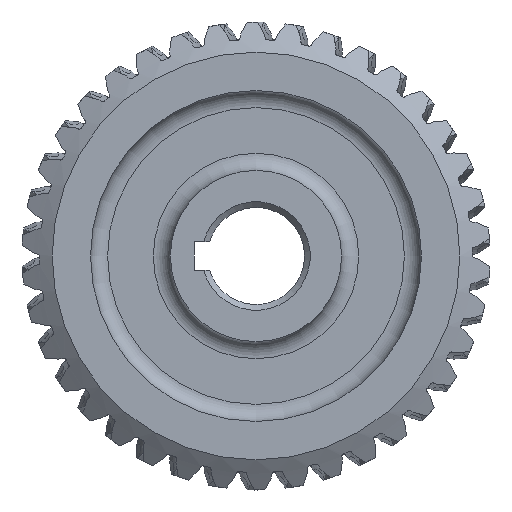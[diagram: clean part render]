
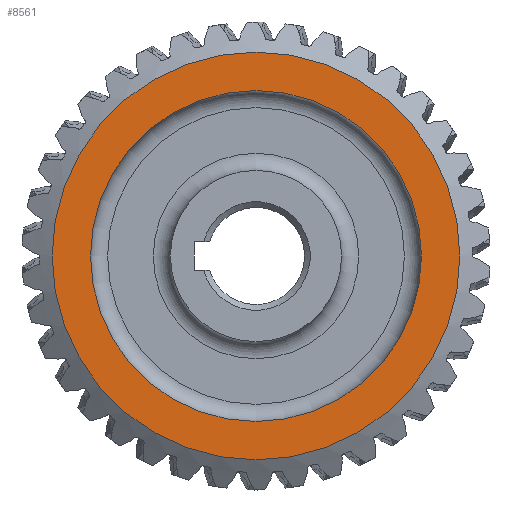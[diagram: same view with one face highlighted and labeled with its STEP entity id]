
A CAD part, left-side view. The second image highlights one B-rep face of the part: STEP entity #8561.
In plain terms, the highlighted planar face has unit normal (-1, 0, 0).
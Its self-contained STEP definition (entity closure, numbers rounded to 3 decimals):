
#20=FACE_BOUND('',#1331,.T.);
#29=PLANE('',#8898);
#262=CIRCLE('',#8771,35.719);
#328=CIRCLE('',#8897,29.);
#847=FACE_OUTER_BOUND('',#1330,.T.);
#1330=EDGE_LOOP('',(#7737));
#1331=EDGE_LOOP('',(#7738));
#3279=VERTEX_POINT('',#24555);
#3494=VERTEX_POINT('',#33632);
#4461=EDGE_CURVE('',#3279,#3279,#262,.T.);
#4910=EDGE_CURVE('',#3494,#3494,#328,.T.);
#7737=ORIENTED_EDGE('',*,*,#4461,.F.);
#7738=ORIENTED_EDGE('',*,*,#4910,.T.);
#8561=ADVANCED_FACE('',(#847,#20),#29,.T.);
#8771=AXIS2_PLACEMENT_3D('',#24557,#9273,#9274);
#8897=AXIS2_PLACEMENT_3D('',#33634,#9540,#9541);
#8898=AXIS2_PLACEMENT_3D('',#33635,#9542,#9543);
#9273=DIRECTION('center_axis',(1.,0.,0.));
#9274=DIRECTION('ref_axis',(0.,0.,-1.));
#9540=DIRECTION('center_axis',(1.,0.,0.));
#9541=DIRECTION('ref_axis',(0.,0.,-1.));
#9542=DIRECTION('center_axis',(-1.,0.,0.));
#9543=DIRECTION('ref_axis',(0.,0.,1.));
#24555=CARTESIAN_POINT('',(-10.,-35.719,0.));
#24557=CARTESIAN_POINT('Origin',(-10.,0.,
0.));
#33632=CARTESIAN_POINT('',(-10.,-29.,0.));
#33634=CARTESIAN_POINT('Origin',(-10.,0.,
0.));
#33635=CARTESIAN_POINT('Origin',(-10.,35.719,0.));
